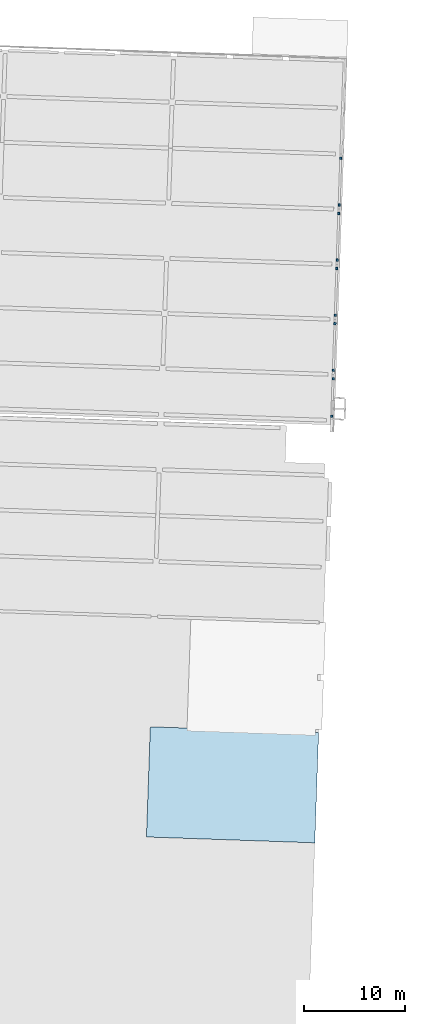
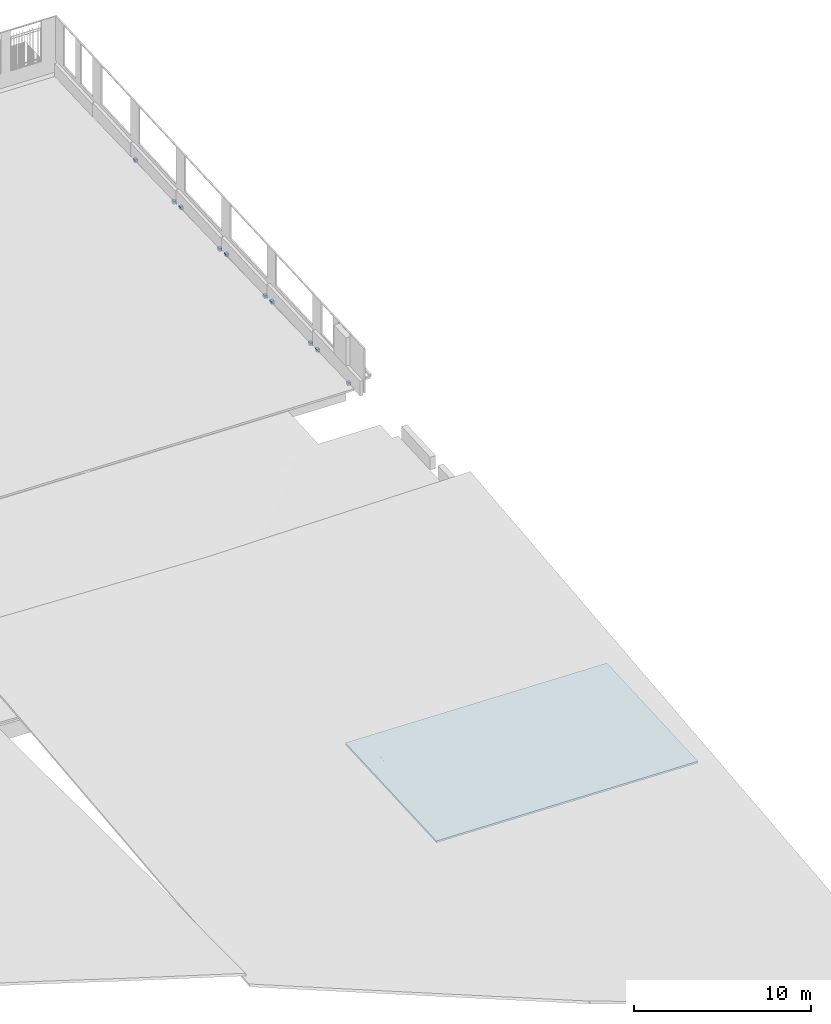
# One storey, part 6 of 17: 10 beams, 1 slab.
"""IFC2X3 building model written with IfcOpenShell, lengths in feet."""

from ifc_helpers import new_model, entity, si_unit, converted_unit, derived_unit, direction, frame, frame_2d, origin, origin_2d_with_axis, place, context, subcontext, project, spatial, rectangle, extrude, material, layer, layer_set, layer_usage, element, save


model = new_model("IFC2X3")

# Units and contexts
model_context = context("Model", 3, precision=0.0001, world=origin(), true_north=direction((0.999390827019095, 0.0348994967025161)))
body_context = subcontext(model_context, "Body", "Model", "MODEL_VIEW")
ifc_project = project(units=[converted_unit("LENGTHUNIT", "FOOT", entity("IfcRatioMeasure", 0.3048), si_unit("LENGTHUNIT", "METRE"), dimensions=[1, 0, 0, 0, 0, 0, 0]), converted_unit("AREAUNIT", "SQUARE FOOT", entity("IfcRatioMeasure", 0.09290304), si_unit("AREAUNIT", "SQUARE_METRE"), dimensions=[2, 0, 0, 0, 0, 0, 0]), converted_unit("VOLUMEUNIT", "CUBIC FOOT", entity("IfcRatioMeasure", 0.028316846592), si_unit("VOLUMEUNIT", "CUBIC_METRE"), dimensions=[3, 0, 0, 0, 0, 0, 0]), converted_unit("PLANEANGLEUNIT", "DEGREE", entity("IfcRatioMeasure", 0.0174532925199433), si_unit("PLANEANGLEUNIT", "RADIAN"), dimensions=[0, 0, 0, 0, 0, 0, 0]), si_unit("MASSUNIT", "GRAM", prefix="KILO"), si_unit("TIMEUNIT", "SECOND"), si_unit("FREQUENCYUNIT", "HERTZ"), si_unit("THERMODYNAMICTEMPERATUREUNIT", "DEGREE_CELSIUS"), derived_unit("THERMALTRANSMITTANCEUNIT", [(si_unit("MASSUNIT", "GRAM", prefix="KILO"), 1), (si_unit("THERMODYNAMICTEMPERATUREUNIT", "KELVIN"), -1), (si_unit("TIMEUNIT", "SECOND"), -3)]), derived_unit("VOLUMETRICFLOWRATEUNIT", [(si_unit("LENGTHUNIT", "METRE"), 3), (si_unit("TIMEUNIT", "SECOND"), -1)]), si_unit("ELECTRICCURRENTUNIT", "AMPERE"), si_unit("ELECTRICVOLTAGEUNIT", "VOLT"), si_unit("POWERUNIT", "WATT"), si_unit("FORCEUNIT", "NEWTON"), si_unit("ILLUMINANCEUNIT", "LUX"), si_unit("LUMINOUSFLUXUNIT", "LUMEN"), si_unit("LUMINOUSINTENSITYUNIT", "CANDELA"), derived_unit("USERDEFINED", [(si_unit("MASSUNIT", "GRAM", prefix="KILO"), -1), (si_unit("LENGTHUNIT", "METRE"), -2), (si_unit("TIMEUNIT", "SECOND"), 3), (si_unit("LUMINOUSFLUXUNIT", "LUMEN"), 1)]), derived_unit("LINEARVELOCITYUNIT", [(si_unit("LENGTHUNIT", "METRE"), 1), (si_unit("TIMEUNIT", "SECOND"), -1)]), si_unit("PRESSUREUNIT", "PASCAL"), derived_unit("USERDEFINED", [(si_unit("LENGTHUNIT", "METRE"), -2), (si_unit("MASSUNIT", "GRAM", prefix="KILO"), 1), (si_unit("TIMEUNIT", "SECOND"), -2)])], contexts=[model_context])

# Site, building, storey
site_placement = place(None, frame((892.518771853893, 322.38689265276, 0.00393700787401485), z_axis=(0.0, 0.0, 1.0), x_axis=(0.0348994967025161, 0.999390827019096, 0.0)))
site = spatial("IfcSite", under=ifc_project, at=site_placement, Name="Default", CompositionType="ELEMENT")
building_placement = place(site_placement, origin())
building = spatial("IfcBuilding", under=site, at=building_placement, CompositionType="ELEMENT")
storey_placement = place(building_placement, frame((0.0, 0.0, 557.0)))
storey = spatial("IfcBuildingStorey", under=building, at=storey_placement, Name="Existing Garage - 1st Level", CompositionType="ELEMENT", Elevation=557.0)

# Beams
ifc_material = material(Name="Concrete - Cast-in-Place Concrete")
beam_1_placement = place(storey_placement, frame((120.927293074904, 236.097286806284, -0.385416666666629), z_axis=(0.0, 0.0, 1.0), x_axis=(-1.0, 0.0, 0.0)))
element("IfcBeam", 1, at=beam_1_placement, inside=storey, material=ifc_material, Name="Concrete-Rectangular Beam:8\" x 8\"w", ObjectType="Concrete-Rectangular Beam:8\" x 8\"w", context=body_context, shape_type="SweptSolid", body=[
    extrude(rectangle(XDim=0.666666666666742, YDim=0.666666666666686, at=origin_2d_with_axis()), frame((1.0, 0.0, -0.333333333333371), z_axis=(1.0, 0.0, 0.0), x_axis=(0.0, 0.0, -1.0)), (0.0, 0.0, 1.0), 0.75),
])
beam_2_placement = place(storey_placement, frame((156.927293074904, 236.097286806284, -1.05208333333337), z_axis=(0.0, 0.0, 1.0), x_axis=(-1.0, 0.0, 0.0)))
element("IfcBeam", 2, at=beam_2_placement, inside=storey, material=ifc_material, Name="Concrete-Rectangular Beam:8\" x 8\"w", ObjectType="Concrete-Rectangular Beam:8\" x 8\"w", context=body_context, shape_type="SweptSolid", body=[
    extrude(rectangle(XDim=0.666666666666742, YDim=0.666666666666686, at=origin_2d_with_axis()), frame((1.0, 0.0, -0.333333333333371), z_axis=(1.0, 0.0, 0.0), x_axis=(0.0, 0.0, -1.0)), (0.0, 0.0, 1.0), 0.749999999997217),
])
beam_3_placement = place(storey_placement, frame((156.927293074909, 236.097286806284, -1.5)))
element("IfcBeam", 3, at=beam_3_placement, inside=storey, material=ifc_material, Name="Concrete-Rectangular Beam:8\" x 8\"w", ObjectType="Concrete-Rectangular Beam:8\" x 8\"w", context=body_context, shape_type="SweptSolid", body=[
    extrude(rectangle(XDim=0.666666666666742, YDim=0.666666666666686, at=frame_2d((0.0, -2.8421709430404e-14), x_axis=(1.0, 0.0))), frame((1.0, 0.0, -0.333333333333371), z_axis=(1.0, 0.0, 0.0), x_axis=(0.0, 0.0, -1.0)), (0.0, 0.0, 1.0), 0.750000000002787),
])
beam_4_placement = place(storey_placement, frame((192.927293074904, 236.097286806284, -1.9375), z_axis=(0.0, 0.0, 1.0), x_axis=(-1.0, 0.0, 0.0)))
element("IfcBeam", 4, at=beam_4_placement, inside=storey, material=ifc_material, Name="Concrete-Rectangular Beam:8\" x 8\"w", ObjectType="Concrete-Rectangular Beam:8\" x 8\"w", context=body_context, shape_type="SweptSolid", body=[
    extrude(rectangle(XDim=0.666666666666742, YDim=0.666666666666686, at=origin_2d_with_axis()), frame((1.0, 0.0, -0.333333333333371), z_axis=(1.0, 0.0, 0.0), x_axis=(0.0, 0.0, -1.0)), (0.0, 0.0, 1.0), 0.749999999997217),
])
beam_5_placement = place(storey_placement, frame((107.677293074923, 236.097286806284, -0.385416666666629), z_axis=(0.0, 0.0, 1.0), x_axis=(-1.0, 0.0, 0.0)))
element("IfcBeam", 5, at=beam_5_placement, inside=storey, material=ifc_material, Name="Concrete-Rectangular Beam:8\" x 8\"w", ObjectType="Concrete-Rectangular Beam:8\" x 8\"w", context=body_context, shape_type="SweptSolid", body=[
    extrude(rectangle(XDim=0.666666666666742, YDim=0.666666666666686, at=frame_2d((0.0, -2.8421709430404e-14), x_axis=(1.0, 0.0))), frame((0.0, 0.0, -0.333333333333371), z_axis=(1.0, 0.0, 0.0), x_axis=(0.0, 0.0, -1.0)), (0.0, 0.0, 1.0), 0.750000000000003),
])
beam_6_placement = place(storey_placement, frame((120.927293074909, 236.097286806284, -0.614583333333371)))
element("IfcBeam", 6, at=beam_6_placement, inside=storey, material=ifc_material, Name="Concrete-Rectangular Beam:8\" x 8\"w", ObjectType="Concrete-Rectangular Beam:8\" x 8\"w", context=body_context, shape_type="SweptSolid", body=[
    extrude(rectangle(XDim=0.666666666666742, YDim=0.666666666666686, at=frame_2d((0.0, -2.8421709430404e-14), x_axis=(1.0, 0.0))), frame((1.0, 0.0, -0.333333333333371), z_axis=(1.0, 0.0, 0.0), x_axis=(0.0, 0.0, -1.0)), (0.0, 0.0, 1.0), 0.7500000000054),
])
beam_7_placement = place(storey_placement, frame((137.177293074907, 236.097286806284, -0.614583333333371)))
element("IfcBeam", 7, at=beam_7_placement, inside=storey, material=ifc_material, Name="Concrete-Rectangular Beam:8\" x 8\"w", ObjectType="Concrete-Rectangular Beam:8\" x 8\"w", context=body_context, shape_type="SweptSolid", body=[
    extrude(rectangle(XDim=0.666666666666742, YDim=0.666666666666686, at=origin_2d_with_axis()), frame((0.0, 0.0, -0.333333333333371), z_axis=(1.0, 0.0, 0.0), x_axis=(0.0, 0.0, -1.0)), (0.0, 0.0, 1.0), 0.750000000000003),
])
beam_8_placement = place(storey_placement, frame((140.677293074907, 236.097286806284, -1.05208333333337), z_axis=(0.0, 0.0, 1.0), x_axis=(-1.0, 0.0, 0.0)))
element("IfcBeam", 8, at=beam_8_placement, inside=storey, material=ifc_material, Name="Concrete-Rectangular Beam:8\" x 8\"w", ObjectType="Concrete-Rectangular Beam:8\" x 8\"w", context=body_context, shape_type="SweptSolid", body=[
    extrude(rectangle(XDim=0.666666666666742, YDim=0.666666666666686, at=frame_2d((0.0, -2.8421709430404e-14), x_axis=(1.0, 0.0))), frame((0.0, 0.0, -0.333333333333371), z_axis=(1.0, 0.0, 0.0), x_axis=(0.0, 0.0, -1.0)), (0.0, 0.0, 1.0), 0.750000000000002),
])
beam_9_placement = place(storey_placement, frame((173.177293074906, 236.097286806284, -1.5)))
element("IfcBeam", 9, at=beam_9_placement, inside=storey, material=ifc_material, Name="Concrete-Rectangular Beam:8\" x 8\"w", ObjectType="Concrete-Rectangular Beam:8\" x 8\"w", context=body_context, shape_type="SweptSolid", body=[
    extrude(rectangle(XDim=0.666666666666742, YDim=0.666666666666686, at=origin_2d_with_axis()), frame((0.0, 0.0, -0.333333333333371), z_axis=(1.0, 0.0, 0.0), x_axis=(0.0, 0.0, -1.0)), (0.0, 0.0, 1.0), 0.749999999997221),
])
beam_10_placement = place(storey_placement, frame((176.677293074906, 236.097286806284, -1.9375), z_axis=(0.0, 0.0, 1.0), x_axis=(-1.0, 0.0, 0.0)))
element("IfcBeam", 10, at=beam_10_placement, inside=storey, material=ifc_material, Name="Concrete-Rectangular Beam:8\" x 8\"w", ObjectType="Concrete-Rectangular Beam:8\" x 8\"w", context=body_context, shape_type="SweptSolid", body=[
    extrude(rectangle(XDim=0.666666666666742, YDim=0.666666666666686, at=frame_2d((0.0, -2.8421709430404e-14), x_axis=(1.0, 0.0))), frame((0.0, 0.0, -0.333333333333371), z_axis=(1.0, 0.0, 0.0), x_axis=(0.0, 0.0, -1.0)), (0.0, 0.0, 1.0), 0.750000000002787),
])

# Slab
ifc_layer = layer(ifc_material, 0.416666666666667)
ifc_layer_set = layer_set([ifc_layer], Name="Floor:Concrete Slab - 5\"")
ifc_layer_usage = layer_usage(ifc_layer_set, "AXIS3", "POSITIVE", 0.0)
slab_placement = place(storey_placement, origin())
element("IfcSlab", 11, at=slab_placement, inside=storey, material=ifc_layer_usage, Name="Floor:Concrete Slab - 5\"", ObjectType="Floor:Concrete Slab - 5\"", PredefinedType="FLOOR", context=body_context, shape_type="SweptSolid", body=[
    extrude(rectangle(XDim=55.0000000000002, YDim=35.9999999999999, at=frame_2d((-2.8421709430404e-14, 0.0), x_axis=(1.0, 0.0))), frame((-14.0727457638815, 264.263953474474, 0.0), z_axis=(0.0, 0.0, -1.0), x_axis=(0.0, 1.0, 0.0)), (0.0, 0.0, 1.0), 0.416666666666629),
])

save(model, "model.ifc")
